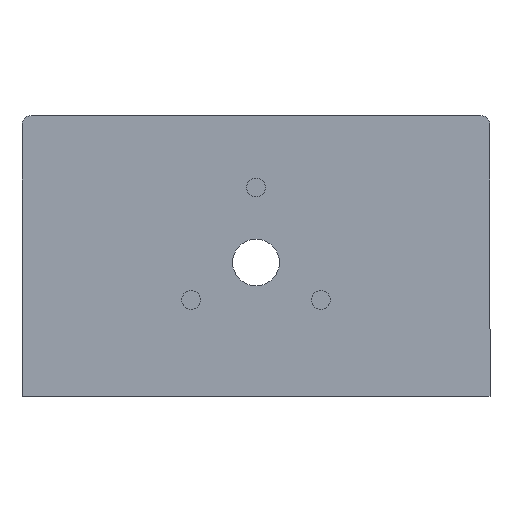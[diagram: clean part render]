
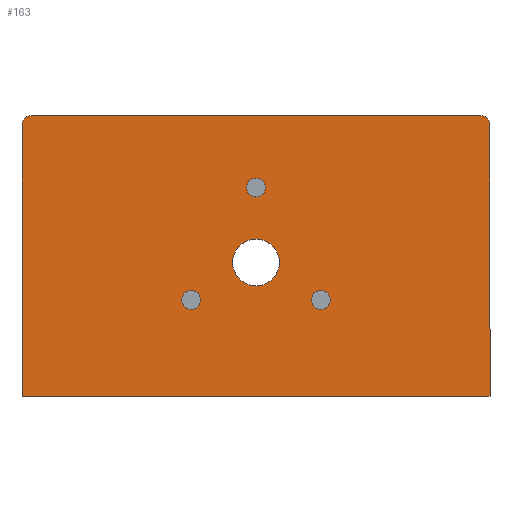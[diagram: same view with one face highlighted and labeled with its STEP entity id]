
A CAD part, top view. The second image highlights one B-rep face of the part: STEP entity #163.
In plain terms, the highlighted planar face has unit normal (0, 0, 1).
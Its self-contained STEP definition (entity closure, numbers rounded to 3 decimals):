
#8 = VERTEX_POINT ( 'NONE', #538 ) ;
#11 = ORIENTED_EDGE ( 'NONE', *, *, #152, .T. ) ;
#13 = CARTESIAN_POINT ( 'NONE',  ( -25., 14., 6. ) ) ;
#15 = CIRCLE ( 'NONE', #47, 1. ) ;
#20 = VERTEX_POINT ( 'NONE', #419 ) ;
#24 = ORIENTED_EDGE ( 'NONE', *, *, #273, .F. ) ;
#32 = DIRECTION ( 'NONE',  ( 0., -1., 0. ) ) ;
#47 = AXIS2_PLACEMENT_3D ( 'NONE', #680, #227, #623 ) ;
#53 = EDGE_CURVE ( 'NONE', #20, #369, #467, .T. ) ;
#59 = VECTOR ( 'NONE', #323, 1000. ) ;
#62 = VERTEX_POINT ( 'NONE', #541 ) ;
#64 = EDGE_CURVE ( 'NONE', #738, #403, #665, .T. ) ;
#66 = DIRECTION ( 'NONE',  ( 0., 0., 1. ) ) ;
#79 = ORIENTED_EDGE ( 'NONE', *, *, #572, .T. ) ;
#81 = DIRECTION ( 'NONE',  ( 1., 0., 0. ) ) ;
#91 = CARTESIAN_POINT ( 'NONE',  ( 0., 0., 6. ) ) ;
#102 = DIRECTION ( 'NONE',  ( 0., 0., 1. ) ) ;
#109 = AXIS2_PLACEMENT_3D ( 'NONE', #91, #321, #610 ) ;
#120 = ORIENTED_EDGE ( 'NONE', *, *, #300, .F. ) ;
#122 = AXIS2_PLACEMENT_3D ( 'NONE', #500, #165, #733 ) ;
#127 = EDGE_LOOP ( 'NONE', ( #443, #463 ) ) ;
#134 = DIRECTION ( 'NONE',  ( -1., 0., 0. ) ) ;
#150 = EDGE_LOOP ( 'NONE', ( #120, #357 ) ) ;
#152 = EDGE_CURVE ( 'NONE', #189, #718, #545, .T. ) ;
#161 = DIRECTION ( 'NONE',  ( 1., 0., 0. ) ) ;
#163 = ADVANCED_FACE ( 'NONE', ( #216, #669, #377, #380, #207 ), #607, .T. ) ;
#165 = DIRECTION ( 'NONE',  ( 0., 0., 1. ) ) ;
#171 = CIRCLE ( 'NONE', #420, 1. ) ;
#186 = EDGE_CURVE ( 'NONE', #403, #738, #400, .T. ) ;
#189 = VERTEX_POINT ( 'NONE', #672 ) ;
#207 = FACE_OUTER_BOUND ( 'NONE', #484, .T. ) ;
#212 = DIRECTION ( 'NONE',  ( 0., 0., 1. ) ) ;
#216 = FACE_BOUND ( 'NONE', #150, .T. ) ;
#218 = CARTESIAN_POINT ( 'NONE',  ( 25., -15., 6. ) ) ;
#223 = CARTESIAN_POINT ( 'NONE',  ( 6.928, -4.7, 6. ) ) ;
#227 = DIRECTION ( 'NONE',  ( 0., 0., 1. ) ) ;
#228 = VERTEX_POINT ( 'NONE', #573 ) ;
#230 = CARTESIAN_POINT ( 'NONE',  ( 7.928, -4.7, 6. ) ) ;
#232 = ORIENTED_EDGE ( 'NONE', *, *, #582, .T. ) ;
#235 = EDGE_CURVE ( 'NONE', #298, #670, #641, .T. ) ;
#236 = DIRECTION ( 'NONE',  ( 0., 0., 1. ) ) ;
#248 = CARTESIAN_POINT ( 'NONE',  ( -25., 15., 6. ) ) ;
#256 = ORIENTED_EDGE ( 'NONE', *, *, #344, .T. ) ;
#273 = EDGE_CURVE ( 'NONE', #692, #62, #15, .T. ) ;
#277 = CIRCLE ( 'NONE', #532, 1. ) ;
#283 = EDGE_LOOP ( 'NONE', ( #382, #440 ) ) ;
#287 = VERTEX_POINT ( 'NONE', #455 ) ;
#289 = VECTOR ( 'NONE', #134, 1000. ) ;
#292 = CIRCLE ( 'NONE', #122, 1. ) ;
#293 = DIRECTION ( 'NONE',  ( 0., 0., 1. ) ) ;
#297 = DIRECTION ( 'NONE',  ( 1., 0., 0. ) ) ;
#298 = VERTEX_POINT ( 'NONE', #575 ) ;
#300 = EDGE_CURVE ( 'NONE', #670, #298, #503, .T. ) ;
#311 = CARTESIAN_POINT ( 'NONE',  ( 25., 15., 6. ) ) ;
#316 = LINE ( 'NONE', #311, #59 ) ;
#321 = DIRECTION ( 'NONE',  ( 0., 0., 1. ) ) ;
#323 = DIRECTION ( 'NONE',  ( 0., 1., 0. ) ) ;
#330 = EDGE_CURVE ( 'NONE', #62, #692, #292, .T. ) ;
#334 = ORIENTED_EDGE ( 'NONE', *, *, #647, .T. ) ;
#340 = ORIENTED_EDGE ( 'NONE', *, *, #330, .F. ) ;
#344 = EDGE_CURVE ( 'NONE', #369, #501, #578, .T. ) ;
#345 = ORIENTED_EDGE ( 'NONE', *, *, #53, .T. ) ;
#357 = ORIENTED_EDGE ( 'NONE', *, *, #235, .F. ) ;
#369 = VERTEX_POINT ( 'NONE', #526 ) ;
#374 = AXIS2_PLACEMENT_3D ( 'NONE', #223, #102, #744 ) ;
#377 = FACE_BOUND ( 'NONE', #283, .T. ) ;
#380 = FACE_BOUND ( 'NONE', #127, .T. ) ;
#382 = ORIENTED_EDGE ( 'NONE', *, *, #606, .F. ) ;
#387 = AXIS2_PLACEMENT_3D ( 'NONE', #446, #236, #161 ) ;
#396 = CARTESIAN_POINT ( 'NONE',  ( 6.928, -4.7, 6. ) ) ;
#400 = CIRCLE ( 'NONE', #520, 2.5 ) ;
#403 = VERTEX_POINT ( 'NONE', #694 ) ;
#419 = CARTESIAN_POINT ( 'NONE',  ( 24., 15., 6. ) ) ;
#420 = AXIS2_PLACEMENT_3D ( 'NONE', #422, #293, #523 ) ;
#422 = CARTESIAN_POINT ( 'NONE',  ( -6.928, -4.7, 6. ) ) ;
#437 = DIRECTION ( 'NONE',  ( 1., 0., 0. ) ) ;
#440 = ORIENTED_EDGE ( 'NONE', *, *, #473, .F. ) ;
#442 = CARTESIAN_POINT ( 'NONE',  ( 0., -0.7, 6. ) ) ;
#443 = ORIENTED_EDGE ( 'NONE', *, *, #64, .F. ) ;
#446 = CARTESIAN_POINT ( 'NONE',  ( -24., 14., 6. ) ) ;
#455 = CARTESIAN_POINT ( 'NONE',  ( -5.928, -4.7, 6. ) ) ;
#463 = ORIENTED_EDGE ( 'NONE', *, *, #186, .F. ) ;
#467 = LINE ( 'NONE', #248, #289 ) ;
#473 = EDGE_CURVE ( 'NONE', #8, #287, #171, .T. ) ;
#480 = VECTOR ( 'NONE', #32, 1000. ) ;
#484 = EDGE_LOOP ( 'NONE', ( #79, #334, #345, #256, #232, #11 ) ) ;
#485 = LINE ( 'NONE', #553, #480 ) ;
#489 = CARTESIAN_POINT ( 'NONE',  ( -25., -15., 6. ) ) ;
#498 = DIRECTION ( 'NONE',  ( 0., 0., 1. ) ) ;
#500 = CARTESIAN_POINT ( 'NONE',  ( 0., 7.3, 6. ) ) ;
#501 = VERTEX_POINT ( 'NONE', #13 ) ;
#503 = CIRCLE ( 'NONE', #698, 1. ) ;
#505 = DIRECTION ( 'NONE',  ( 0., 0., 1. ) ) ;
#520 = AXIS2_PLACEMENT_3D ( 'NONE', #442, #498, #730 ) ;
#523 = DIRECTION ( 'NONE',  ( 1., 0., 0. ) ) ;
#526 = CARTESIAN_POINT ( 'NONE',  ( -24., 15., 6. ) ) ;
#530 = CARTESIAN_POINT ( 'NONE',  ( 0., -0.7, 6. ) ) ;
#532 = AXIS2_PLACEMENT_3D ( 'NONE', #725, #212, #437 ) ;
#538 = CARTESIAN_POINT ( 'NONE',  ( -7.928, -4.7, 6. ) ) ;
#540 = CARTESIAN_POINT ( 'NONE',  ( -6.928, -4.7, 6. ) ) ;
#541 = CARTESIAN_POINT ( 'NONE',  ( -1., 7.3, 6. ) ) ;
#542 = AXIS2_PLACEMENT_3D ( 'NONE', #530, #66, #297 ) ;
#545 = LINE ( 'NONE', #489, #701 ) ;
#553 = CARTESIAN_POINT ( 'NONE',  ( -25., 15., 6. ) ) ;
#572 = EDGE_CURVE ( 'NONE', #718, #228, #316, .T. ) ;
#573 = CARTESIAN_POINT ( 'NONE',  ( 25., 14., 6. ) ) ;
#575 = CARTESIAN_POINT ( 'NONE',  ( 5.928, -4.7, 6. ) ) ;
#578 = CIRCLE ( 'NONE', #387, 1. ) ;
#582 = EDGE_CURVE ( 'NONE', #501, #189, #485, .T. ) ;
#606 = EDGE_CURVE ( 'NONE', #287, #8, #723, .T. ) ;
#607 = PLANE ( 'NONE',  #109 ) ;
#610 = DIRECTION ( 'NONE',  ( 1., 0., 0. ) ) ;
#623 = DIRECTION ( 'NONE',  ( 1., 0., 0. ) ) ;
#628 = DIRECTION ( 'NONE',  ( 1., 0., 0. ) ) ;
#641 = CIRCLE ( 'NONE', #374, 1. ) ;
#647 = EDGE_CURVE ( 'NONE', #228, #20, #277, .T. ) ;
#665 = CIRCLE ( 'NONE', #542, 2.5 ) ;
#669 = FACE_BOUND ( 'NONE', #678, .T. ) ;
#670 = VERTEX_POINT ( 'NONE', #230 ) ;
#672 = CARTESIAN_POINT ( 'NONE',  ( -25., -15., 6. ) ) ;
#675 = AXIS2_PLACEMENT_3D ( 'NONE', #540, #716, #81 ) ;
#678 = EDGE_LOOP ( 'NONE', ( #24, #340 ) ) ;
#679 = CARTESIAN_POINT ( 'NONE',  ( 1., 7.3, 6. ) ) ;
#680 = CARTESIAN_POINT ( 'NONE',  ( 0., 7.3, 6. ) ) ;
#692 = VERTEX_POINT ( 'NONE', #679 ) ;
#694 = CARTESIAN_POINT ( 'NONE',  ( -2.5, -0.7, 6. ) ) ;
#698 = AXIS2_PLACEMENT_3D ( 'NONE', #396, #505, #628 ) ;
#701 = VECTOR ( 'NONE', #721, 1000. ) ;
#716 = DIRECTION ( 'NONE',  ( 0., 0., 1. ) ) ;
#718 = VERTEX_POINT ( 'NONE', #218 ) ;
#721 = DIRECTION ( 'NONE',  ( 1., 0., 0. ) ) ;
#723 = CIRCLE ( 'NONE', #675, 1. ) ;
#725 = CARTESIAN_POINT ( 'NONE',  ( 24., 14., 6. ) ) ;
#730 = DIRECTION ( 'NONE',  ( 1., 0., 0. ) ) ;
#733 = DIRECTION ( 'NONE',  ( 1., 0., 0. ) ) ;
#738 = VERTEX_POINT ( 'NONE', #739 ) ;
#739 = CARTESIAN_POINT ( 'NONE',  ( 2.5, -0.7, 6. ) ) ;
#744 = DIRECTION ( 'NONE',  ( 1., 0., 0. ) ) ;
